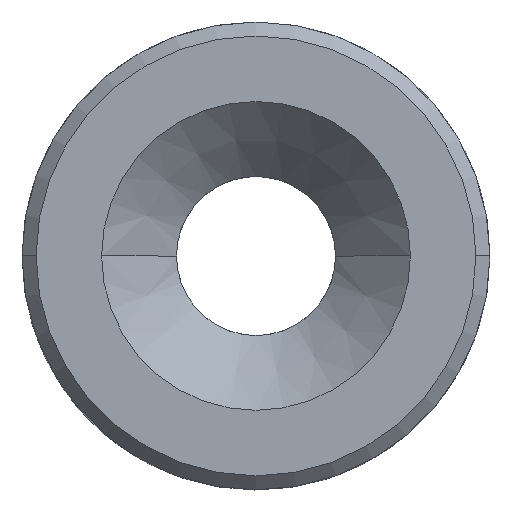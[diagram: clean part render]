
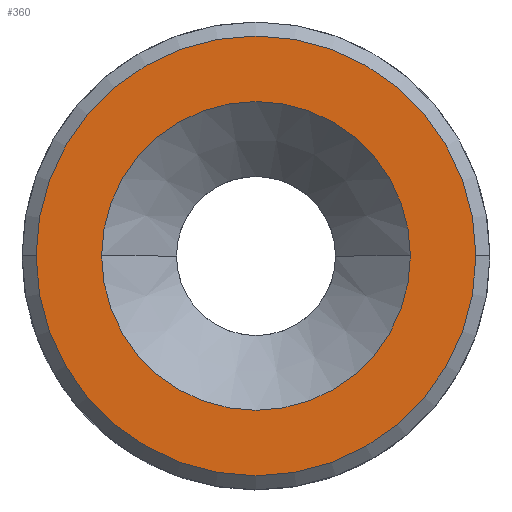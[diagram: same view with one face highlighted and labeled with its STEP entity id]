
A CAD part, top view. The second image highlights one B-rep face of the part: STEP entity #360.
In plain terms, the highlighted planar face has unit normal (0, 0, 1).
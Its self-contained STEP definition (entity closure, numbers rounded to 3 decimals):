
#14=CARTESIAN_POINT('',(4.062,3.5,0.5));
#15=DIRECTION('',(0.,0.,1.));
#16=DIRECTION('',(-1.,0.,0.));
#17=AXIS2_PLACEMENT_3D('',#14,#15,#16);
#23=CARTESIAN_POINT('',(4.062,3.5,0.5));
#24=DIRECTION('',(0.,0.,1.));
#25=DIRECTION('',(1.,0.,0.));
#26=AXIS2_PLACEMENT_3D('',#23,#24,#25);
#31=CARTESIAN_POINT('',(4.062,3.5,0.5));
#32=DIRECTION('',(0.,0.,1.));
#33=DIRECTION('',(-1.,0.,0.));
#34=AXIS2_PLACEMENT_3D('',#31,#32,#33);
#39=CARTESIAN_POINT('',(4.062,3.5,0.5));
#40=DIRECTION('',(0.,0.,1.));
#41=DIRECTION('',(1.,0.,0.));
#42=AXIS2_PLACEMENT_3D('',#39,#40,#41);
#327=CARTESIAN_POINT('',(0.762,3.5,0.5));
#328=CARTESIAN_POINT('',(7.362,3.5,0.5));
#329=VERTEX_POINT('',#327);
#330=VERTEX_POINT('',#328);
#331=CARTESIAN_POINT('',(-0.638,3.5,0.5));
#332=CARTESIAN_POINT('',(8.762,3.5,0.5));
#333=VERTEX_POINT('',#331);
#334=VERTEX_POINT('',#332);
#343=CARTESIAN_POINT('',(0.,7.,0.5));
#344=DIRECTION('',(0.,0.,-1.));
#345=DIRECTION('',(-1.,0.,0.));
#346=AXIS2_PLACEMENT_3D('',#343,#344,#345);
#347=PLANE('',#346);
#349=ORIENTED_EDGE('',*,*,#348,.F.);
#351=ORIENTED_EDGE('',*,*,#350,.F.);
#352=EDGE_LOOP('',(#349,#351));
#353=FACE_OUTER_BOUND('',#352,.F.);
#355=ORIENTED_EDGE('',*,*,#354,.T.);
#357=ORIENTED_EDGE('',*,*,#356,.T.);
#358=EDGE_LOOP('',(#355,#357));
#359=FACE_BOUND('',#358,.F.);
#18=CIRCLE('',#17,3.3);
#27=CIRCLE('',#26,3.3);
#35=CIRCLE('',#34,4.7);
#43=CIRCLE('',#42,4.7);
#348=EDGE_CURVE('',#333,#334,#35,.T.);
#350=EDGE_CURVE('',#334,#333,#43,.T.);
#354=EDGE_CURVE('',#329,#330,#18,.T.);
#356=EDGE_CURVE('',#330,#329,#27,.T.);
#360=ADVANCED_FACE('',(#353,#359),#347,.F.);
